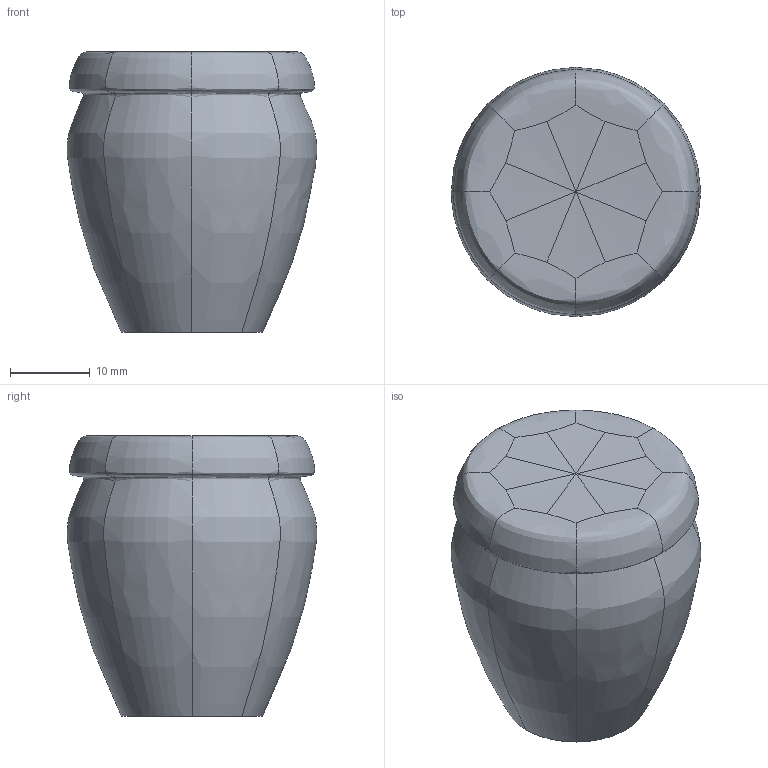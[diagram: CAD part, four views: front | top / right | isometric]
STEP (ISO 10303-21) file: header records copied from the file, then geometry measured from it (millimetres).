
FILE_DESCRIPTION(/* description */ (''),/* implementation_level */ '2;1');
FILE_NAME(/* name */ 'Solid Kimchi Pot.step',/* time_stamp */ '2023-05-07T17:59:56-04:00',/* author */ (''),/* organization */ (''),/* preprocessor_version */ 'ST-DEVELOPER v19.2',/* originating_system */ 'Autodesk Translation Framework v12.4.0.73',/* authorisation */ '');
FILE_SCHEMA (('AUTOMOTIVE_DESIGN { 1 0 10303 214 3 1 1 }'));
Length unit declared in the file: millimetre
Products named in the file (1): (Unsaved)
Bounding box: 31.36 x 31.35 x 35.26 mm (x, y, z)
Volume: 21049.2 mm3; surface area: 4133.7 mm2
Topology: 1 solids, 1 shells, 24 faces, 56 edges, 34 vertices
Faces by surface type: bspline 24
Entity records: 5165 total; most frequent: CARTESIAN_POINT 4771, ORIENTED_EDGE 112, B_SPLINE_CURVE_WITH_KNOTS 56, EDGE_CURVE 56, VERTEX_POINT 34, FACE_OUTER_BOUND 24, EDGE_LOOP 24, B_SPLINE_SURFACE_WITH_KNOTS 24
